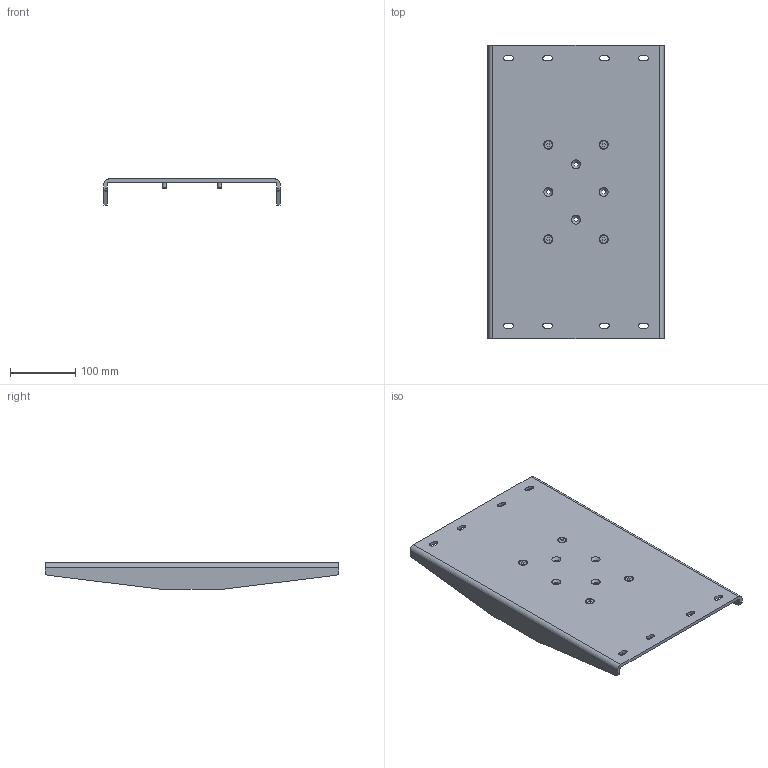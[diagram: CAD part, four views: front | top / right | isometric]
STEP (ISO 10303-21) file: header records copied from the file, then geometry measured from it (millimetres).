
FILE_DESCRIPTION(/* description */ ('Unknown'),/* implementation_level */ '2;1');
FILE_NAME(/* name */ '115.00175_00',/* time_stamp */ '2024-05-16T14:10:43+02:00',/* author */ ('Unknown'),/* organization */ ('Unknown'),/* preprocessor_version */ 'ST-DEVELOPER v18.104',/* originating_system */ 'Solid Edge',/* authorisation */ 'Unknown');
FILE_SCHEMA (('AUTOMOTIVE_DESIGN {1 0 10303 214 3 1 1}'));
Length unit declared in the file: millimetre
Products named in the file (3): 115.00175; 127.00454; 142.00260
Assembly tree (5 placements, depth 2):
  115.00175
    127.00454
    142.00260  x4
Bounding box: 270 x 450 x 40 mm (x, y, z)
Volume: 712901.5 mm3; surface area: 296541.2 mm2
Topology: 5 solids, 5 shells, 126 faces, 324 edges, 212 vertices
Faces by surface type: plane 66, cylinder 40, cone 16, torus 4
Full cylindrical faces by diameter (mm): 6 x4, 6.6 x8
Entity records: 2894 total; most frequent: DIRECTION 486, CARTESIAN_POINT 461, ORIENTED_EDGE 430, EDGE_CURVE 215, AXIS2_PLACEMENT_3D 178, VERTEX_POINT 153, EDGE_LOOP 140, FACE_BOUND 140
